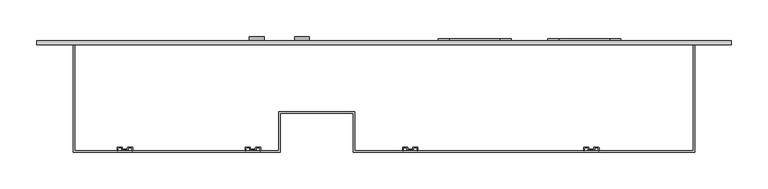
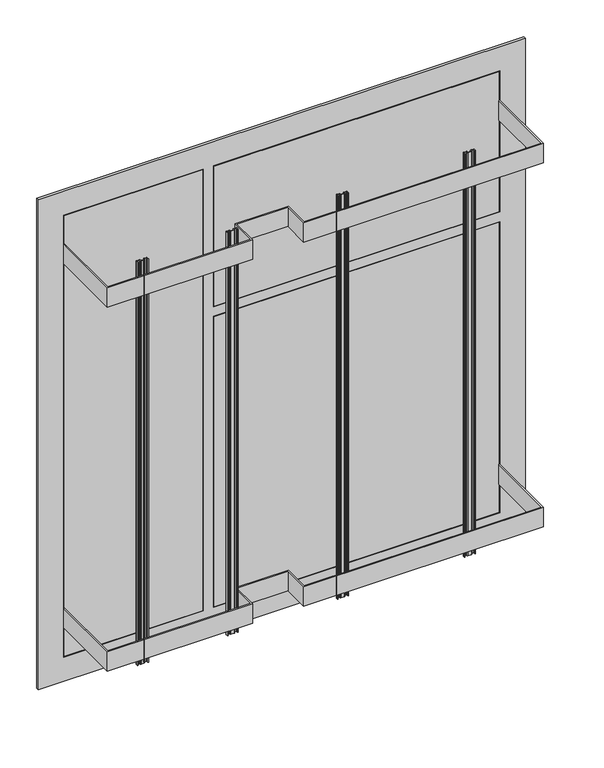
"""IFC4 building model written with IfcOpenShell, lengths in millimetres: proxy geometry, ЩЭ : ЩЭ_2 квартиры."""

from ifc_helpers import new_model, si_unit, point, frame, frame_2d, origin, place, context, project, spatial, polyline, circle_curve, trimmed, segment, composite_curve, outline, extrude, source, transform, mapped, element, save
from ifc_brep_helpers import plane_surface, cylinder_surface, revolved_surface, advanced_brep


def electrical_equipment_854c8e54(model_context):
    return source(origin(), model_context, "Body", "SolidModel", [
        extrude(outline(composite_curve([segment(trimmed(circle_curve(frame_2d((498.0, 89.0)), 15.0), [point((513.0, 89.0))], [point((498.0, 74.0))], False, "CARTESIAN"), True, "CONTINUOUS"), segment(polyline([(498.0, 74.0), (463.0, 74.0)]), True, "CONTINUOUS"), segment(trimmed(circle_curve(frame_2d((463.0, 89.0)), 15.0), [point((463.0, 74.0))], [point((448.0, 89.0))], False, "CARTESIAN"), True, "CONTINUOUS"), segment(polyline([(448.0, 89.0), (448.0, 159.0)]), True, "CONTINUOUS"), segment(trimmed(circle_curve(frame_2d((463.0, 159.0)), 15.0), [point((448.0, 159.0))], [point((463.0, 174.0))], False, "CARTESIAN"), True, "CONTINUOUS"), segment(polyline([(463.0, 174.0), (498.0, 174.0)]), True, "CONTINUOUS"), segment(trimmed(circle_curve(frame_2d((498.0, 159.0)), 15.0), [point((498.0, 174.0))], [point((513.0, 159.0))], False, "CARTESIAN"), True, "CONTINUOUS"), segment(polyline([(513.0, 159.0), (513.0, 89.0)]), True, "CONTINUOUS")], self_intersect=False)), frame((0.0, 5.0, 0.0), z_axis=(0.0, 1.0, 0.0), x_axis=(0.0, 0.0, 1.0)), (0.0, 0.0, 1.0), 3.0),
        extrude(outline(composite_curve([segment(trimmed(circle_curve(frame_2d((498.0, 239.0)), 15.0), [point((513.0, 239.0))], [point((498.0, 224.0))], False, "CARTESIAN"), True, "CONTINUOUS"), segment(polyline([(498.0, 224.0), (463.0, 224.0)]), True, "CONTINUOUS"), segment(trimmed(circle_curve(frame_2d((463.0, 239.0)), 15.0), [point((463.0, 224.0))], [point((448.0, 239.0))], False, "CARTESIAN"), True, "CONTINUOUS"), segment(polyline([(448.0, 239.0), (448.0, 309.0)]), True, "CONTINUOUS"), segment(trimmed(circle_curve(frame_2d((463.0, 309.0)), 15.0), [point((448.0, 309.0))], [point((463.0, 324.0))], False, "CARTESIAN"), True, "CONTINUOUS"), segment(polyline([(463.0, 324.0), (498.0, 324.0)]), True, "CONTINUOUS"), segment(trimmed(circle_curve(frame_2d((498.0, 309.0)), 15.0), [point((498.0, 324.0))], [point((513.0, 309.0))], False, "CARTESIAN"), True, "CONTINUOUS"), segment(polyline([(513.0, 309.0), (513.0, 239.0)]), True, "CONTINUOUS")], self_intersect=False)), frame((0.0, 5.0, 0.0), z_axis=(0.0, 1.0, 0.0), x_axis=(0.0, 0.0, 1.0)), (0.0, 0.0, 1.0), 3.0),
        extrude(outline(composite_curve([segment(trimmed(circle_curve(frame_2d((26.3020158, -141.0)), 1.0), [point((25.3020158, -141.0))], [point((26.3020158, -140.0))], False, "CARTESIAN"), True, "CONTINUOUS"), segment(polyline([(26.3020158, -140.0), (31.3020158, -140.0)]), True, "CONTINUOUS"), segment(trimmed(circle_curve(frame_2d((31.3020158, -141.0)), 1.0), [point((31.3020158, -140.0))], [point((32.3020158, -141.0))], False, "CARTESIAN"), True, "CONTINUOUS"), segment(polyline([(32.3020158, -141.0), (32.3020158, -142.0)]), True, "CONTINUOUS"), segment(trimmed(circle_curve(frame_2d((33.3020158, -142.0)), 1.0), [point((32.3020158, -142.0))], [point((33.3020158, -143.0))], True, "CARTESIAN"), True, "CONTINUOUS"), segment(polyline([(33.3020158, -143.0), (38.3020158, -143.0)]), True, "CONTINUOUS"), segment(trimmed(circle_curve(frame_2d((38.3020158, -142.0)), 1.0), [point((38.3020158, -143.0))], [point((39.3020158, -142.0))], True, "CARTESIAN"), True, "CONTINUOUS"), segment(polyline([(39.3020158, -142.0), (39.3020158, -141.0)]), True, "CONTINUOUS"), segment(trimmed(circle_curve(frame_2d((40.3020158, -141.0)), 1.0), [point((39.3020158, -141.0))], [point((40.3020158, -140.0))], False, "CARTESIAN"), True, "CONTINUOUS"), segment(polyline([(40.3020158, -140.0), (45.3020158, -140.0)]), True, "CONTINUOUS"), segment(trimmed(circle_curve(frame_2d((45.3020158, -141.0)), 1.0), [point((45.3020158, -140.0))], [point((46.3020158, -141.0))], False, "CARTESIAN"), True, "CONTINUOUS"), segment(polyline([(46.3020158, -141.0), (46.3020158, -145.0), (45.3020158, -145.0), (45.3020158, -142.0)]), True, "CONTINUOUS"), segment(trimmed(circle_curve(frame_2d((44.3020158, -142.0)), 1.0), [point((45.3020158, -142.0))], [point((44.3020158, -141.0))], True, "CARTESIAN"), True, "CONTINUOUS"), segment(polyline([(44.3020158, -141.0), (41.3020158, -141.0)]), True, "CONTINUOUS"), segment(trimmed(circle_curve(frame_2d((41.3020158, -142.0)), 1.0), [point((41.3020158, -141.0))], [point((40.3020158, -142.0))], True, "CARTESIAN"), True, "CONTINUOUS"), segment(polyline([(40.3020158, -142.0), (40.3020158, -143.0)]), True, "CONTINUOUS"), segment(trimmed(circle_curve(frame_2d((39.3020158, -143.0)), 1.0), [point((40.3020158, -143.0))], [point((39.3020158, -144.0))], False, "CARTESIAN"), True, "CONTINUOUS"), segment(polyline([(39.3020158, -144.0), (32.3020158, -144.0)]), True, "CONTINUOUS"), segment(trimmed(circle_curve(frame_2d((32.3020158, -143.0)), 1.0), [point((32.3020158, -144.0))], [point((31.3020158, -143.0))], False, "CARTESIAN"), True, "CONTINUOUS"), segment(polyline([(31.3020158, -143.0), (31.3020158, -142.0)]), True, "CONTINUOUS"), segment(trimmed(circle_curve(frame_2d((30.3020158, -142.0)), 1.0), [point((31.3020158, -142.0))], [point((30.3020158, -141.0))], True, "CARTESIAN"), True, "CONTINUOUS"), segment(polyline([(30.3020158, -141.0), (27.3020158, -141.0)]), True, "CONTINUOUS"), segment(trimmed(circle_curve(frame_2d((27.3020158, -142.0)), 1.0), [point((27.3020158, -141.0))], [point((26.3020158, -142.0))], True, "CARTESIAN"), True, "CONTINUOUS"), segment(polyline([(26.3020158, -142.0), (26.3020158, -145.0), (25.3020158, -145.0), (25.3020158, -141.0)]), True, "CONTINUOUS")], self_intersect=False)), frame((0.0, 0.0, 99.2671013), z_axis=(0.0, 0.0, 1.0), x_axis=(1.0, 0.0, 0.0)), (0.0, 0.0, 1.0), 830.6584154),
        extrude(outline(composite_curve([segment(trimmed(circle_curve(frame_2d((274.0, -141.0)), 1.0), [point((273.0, -141.0))], [point((274.0, -140.0))], False, "CARTESIAN"), True, "CONTINUOUS"), segment(polyline([(274.0, -140.0), (279.0, -140.0)]), True, "CONTINUOUS"), segment(trimmed(circle_curve(frame_2d((279.0, -141.0)), 1.0), [point((279.0, -140.0))], [point((280.0, -141.0))], False, "CARTESIAN"), True, "CONTINUOUS"), segment(polyline([(280.0, -141.0), (280.0, -142.0)]), True, "CONTINUOUS"), segment(trimmed(circle_curve(frame_2d((281.0, -142.0)), 1.0), [point((280.0, -142.0))], [point((281.0, -143.0))], True, "CARTESIAN"), True, "CONTINUOUS"), segment(polyline([(281.0, -143.0), (286.0, -143.0)]), True, "CONTINUOUS"), segment(trimmed(circle_curve(frame_2d((286.0, -142.0)), 1.0), [point((286.0, -143.0))], [point((287.0, -142.0))], True, "CARTESIAN"), True, "CONTINUOUS"), segment(polyline([(287.0, -142.0), (287.0, -141.0)]), True, "CONTINUOUS"), segment(trimmed(circle_curve(frame_2d((288.0, -141.0)), 1.0), [point((287.0, -141.0))], [point((288.0, -140.0))], False, "CARTESIAN"), True, "CONTINUOUS"), segment(polyline([(288.0, -140.0), (293.0, -140.0)]), True, "CONTINUOUS"), segment(trimmed(circle_curve(frame_2d((293.0, -141.0)), 1.0), [point((293.0, -140.0))], [point((294.0, -141.0))], False, "CARTESIAN"), True, "CONTINUOUS"), segment(polyline([(294.0, -141.0), (294.0, -145.0), (293.0, -145.0), (293.0, -142.0)]), True, "CONTINUOUS"), segment(trimmed(circle_curve(frame_2d((292.0, -142.0)), 1.0), [point((293.0, -142.0))], [point((292.0, -141.0))], True, "CARTESIAN"), True, "CONTINUOUS"), segment(polyline([(292.0, -141.0), (289.0, -141.0)]), True, "CONTINUOUS"), segment(trimmed(circle_curve(frame_2d((289.0, -142.0)), 1.0), [point((289.0, -141.0))], [point((288.0, -142.0))], True, "CARTESIAN"), True, "CONTINUOUS"), segment(polyline([(288.0, -142.0), (288.0, -143.0)]), True, "CONTINUOUS"), segment(trimmed(circle_curve(frame_2d((287.0, -143.0)), 1.0), [point((288.0, -143.0))], [point((287.0, -144.0))], False, "CARTESIAN"), True, "CONTINUOUS"), segment(polyline([(287.0, -144.0), (280.0, -144.0)]), True, "CONTINUOUS"), segment(trimmed(circle_curve(frame_2d((280.0, -143.0)), 1.0), [point((280.0, -144.0))], [point((279.0, -143.0))], False, "CARTESIAN"), True, "CONTINUOUS"), segment(polyline([(279.0, -143.0), (279.0, -142.0)]), True, "CONTINUOUS"), segment(trimmed(circle_curve(frame_2d((278.0, -142.0)), 1.0), [point((279.0, -142.0))], [point((278.0, -141.0))], True, "CARTESIAN"), True, "CONTINUOUS"), segment(polyline([(278.0, -141.0), (275.0, -141.0)]), True, "CONTINUOUS"), segment(trimmed(circle_curve(frame_2d((275.0, -142.0)), 1.0), [point((275.0, -141.0))], [point((274.0, -142.0))], True, "CARTESIAN"), True, "CONTINUOUS"), segment(polyline([(274.0, -142.0), (274.0, -145.0), (273.0, -145.0), (273.0, -141.0)]), True, "CONTINUOUS")], self_intersect=False)), frame((0.0, 0.0, 99.2671013), z_axis=(0.0, 0.0, 1.0), x_axis=(1.0, 0.0, 0.0)), (0.0, 0.0, 1.0), 830.6584154),
        extrude(outline(composite_curve([segment(trimmed(circle_curve(frame_2d((-188.6979842, -141.0)), 1.0), [point((-189.6979842, -141.0))], [point((-188.6979842, -140.0))], False, "CARTESIAN"), True, "CONTINUOUS"), segment(polyline([(-188.6979842, -140.0), (-183.6979842, -140.0)]), True, "CONTINUOUS"), segment(trimmed(circle_curve(frame_2d((-183.6979842, -141.0)), 1.0), [point((-183.6979842, -140.0))], [point((-182.6979842, -141.0))], False, "CARTESIAN"), True, "CONTINUOUS"), segment(polyline([(-182.6979842, -141.0), (-182.6979842, -142.0)]), True, "CONTINUOUS"), segment(trimmed(circle_curve(frame_2d((-181.6979842, -142.0)), 1.0), [point((-182.6979842, -142.0))], [point((-181.6979842, -143.0))], True, "CARTESIAN"), True, "CONTINUOUS"), segment(polyline([(-181.6979842, -143.0), (-176.6979842, -143.0)]), True, "CONTINUOUS"), segment(trimmed(circle_curve(frame_2d((-176.6979842, -142.0)), 1.0), [point((-176.6979842, -143.0))], [point((-175.6979842, -142.0))], True, "CARTESIAN"), True, "CONTINUOUS"), segment(polyline([(-175.6979842, -142.0), (-175.6979842, -141.0)]), True, "CONTINUOUS"), segment(trimmed(circle_curve(frame_2d((-174.6979842, -141.0)), 1.0), [point((-175.6979842, -141.0))], [point((-174.6979842, -140.0))], False, "CARTESIAN"), True, "CONTINUOUS"), segment(polyline([(-174.6979842, -140.0), (-169.6979842, -140.0)]), True, "CONTINUOUS"), segment(trimmed(circle_curve(frame_2d((-169.6979842, -141.0)), 1.0), [point((-169.6979842, -140.0))], [point((-168.6979842, -141.0))], False, "CARTESIAN"), True, "CONTINUOUS"), segment(polyline([(-168.6979842, -141.0), (-168.6979842, -145.0), (-169.6979842, -145.0), (-169.6979842, -142.0)]), True, "CONTINUOUS"), segment(trimmed(circle_curve(frame_2d((-170.6979842, -142.0)), 1.0), [point((-169.6979842, -142.0))], [point((-170.6979842, -141.0))], True, "CARTESIAN"), True, "CONTINUOUS"), segment(polyline([(-170.6979842, -141.0), (-173.6979842, -141.0)]), True, "CONTINUOUS"), segment(trimmed(circle_curve(frame_2d((-173.6979842, -142.0)), 1.0), [point((-173.6979842, -141.0))], [point((-174.6979842, -142.0))], True, "CARTESIAN"), True, "CONTINUOUS"), segment(polyline([(-174.6979842, -142.0), (-174.6979842, -143.0)]), True, "CONTINUOUS"), segment(trimmed(circle_curve(frame_2d((-175.6979842, -143.0)), 1.0), [point((-174.6979842, -143.0))], [point((-175.6979842, -144.0))], False, "CARTESIAN"), True, "CONTINUOUS"), segment(polyline([(-175.6979842, -144.0), (-182.6979842, -144.0)]), True, "CONTINUOUS"), segment(trimmed(circle_curve(frame_2d((-182.6979842, -143.0)), 1.0), [point((-182.6979842, -144.0))], [point((-183.6979842, -143.0))], False, "CARTESIAN"), True, "CONTINUOUS"), segment(polyline([(-183.6979842, -143.0), (-183.6979842, -142.0)]), True, "CONTINUOUS"), segment(trimmed(circle_curve(frame_2d((-184.6979842, -142.0)), 1.0), [point((-183.6979842, -142.0))], [point((-184.6979842, -141.0))], True, "CARTESIAN"), True, "CONTINUOUS"), segment(polyline([(-184.6979842, -141.0), (-187.6979842, -141.0)]), True, "CONTINUOUS"), segment(trimmed(circle_curve(frame_2d((-187.6979842, -142.0)), 1.0), [point((-187.6979842, -141.0))], [point((-188.6979842, -142.0))], True, "CARTESIAN"), True, "CONTINUOUS"), segment(polyline([(-188.6979842, -142.0), (-188.6979842, -145.0), (-189.6979842, -145.0), (-189.6979842, -141.0)]), True, "CONTINUOUS")], self_intersect=False)), frame((0.0, 0.0, 99.2671013), z_axis=(0.0, 0.0, 1.0), x_axis=(1.0, 0.0, 0.0)), (0.0, 0.0, 1.0), 830.6584154),
        extrude(outline(composite_curve([segment(trimmed(circle_curve(frame_2d((-363.6979842, -141.0)), 1.0), [point((-364.6979842, -141.0))], [point((-363.6979842, -140.0))], False, "CARTESIAN"), True, "CONTINUOUS"), segment(polyline([(-363.6979842, -140.0), (-358.6979842, -140.0)]), True, "CONTINUOUS"), segment(trimmed(circle_curve(frame_2d((-358.6979842, -141.0)), 1.0), [point((-358.6979842, -140.0))], [point((-357.6979842, -141.0))], False, "CARTESIAN"), True, "CONTINUOUS"), segment(polyline([(-357.6979842, -141.0), (-357.6979842, -142.0)]), True, "CONTINUOUS"), segment(trimmed(circle_curve(frame_2d((-356.6979842, -142.0)), 1.0), [point((-357.6979842, -142.0))], [point((-356.6979842, -143.0))], True, "CARTESIAN"), True, "CONTINUOUS"), segment(polyline([(-356.6979842, -143.0), (-351.6979842, -143.0)]), True, "CONTINUOUS"), segment(trimmed(circle_curve(frame_2d((-351.6979842, -142.0)), 1.0), [point((-351.6979842, -143.0))], [point((-350.6979842, -142.0))], True, "CARTESIAN"), True, "CONTINUOUS"), segment(polyline([(-350.6979842, -142.0), (-350.6979842, -141.0)]), True, "CONTINUOUS"), segment(trimmed(circle_curve(frame_2d((-349.6979842, -141.0)), 1.0), [point((-350.6979842, -141.0))], [point((-349.6979842, -140.0))], False, "CARTESIAN"), True, "CONTINUOUS"), segment(polyline([(-349.6979842, -140.0), (-344.6979842, -140.0)]), True, "CONTINUOUS"), segment(trimmed(circle_curve(frame_2d((-344.6979842, -141.0)), 1.0), [point((-344.6979842, -140.0))], [point((-343.6979842, -141.0))], False, "CARTESIAN"), True, "CONTINUOUS"), segment(polyline([(-343.6979842, -141.0), (-343.6979842, -145.0), (-344.6979842, -145.0), (-344.6979842, -142.0)]), True, "CONTINUOUS"), segment(trimmed(circle_curve(frame_2d((-345.6979842, -142.0)), 1.0), [point((-344.6979842, -142.0))], [point((-345.6979842, -141.0))], True, "CARTESIAN"), True, "CONTINUOUS"), segment(polyline([(-345.6979842, -141.0), (-348.6979842, -141.0)]), True, "CONTINUOUS"), segment(trimmed(circle_curve(frame_2d((-348.6979842, -142.0)), 1.0), [point((-348.6979842, -141.0))], [point((-349.6979842, -142.0))], True, "CARTESIAN"), True, "CONTINUOUS"), segment(polyline([(-349.6979842, -142.0), (-349.6979842, -143.0)]), True, "CONTINUOUS"), segment(trimmed(circle_curve(frame_2d((-350.6979842, -143.0)), 1.0), [point((-349.6979842, -143.0))], [point((-350.6979842, -144.0))], False, "CARTESIAN"), True, "CONTINUOUS"), segment(polyline([(-350.6979842, -144.0), (-357.6979842, -144.0)]), True, "CONTINUOUS"), segment(trimmed(circle_curve(frame_2d((-357.6979842, -143.0)), 1.0), [point((-357.6979842, -144.0))], [point((-358.6979842, -143.0))], False, "CARTESIAN"), True, "CONTINUOUS"), segment(polyline([(-358.6979842, -143.0), (-358.6979842, -142.0)]), True, "CONTINUOUS"), segment(trimmed(circle_curve(frame_2d((-359.6979842, -142.0)), 1.0), [point((-358.6979842, -142.0))], [point((-359.6979842, -141.0))], True, "CARTESIAN"), True, "CONTINUOUS"), segment(polyline([(-359.6979842, -141.0), (-362.6979842, -141.0)]), True, "CONTINUOUS"), segment(trimmed(circle_curve(frame_2d((-362.6979842, -142.0)), 1.0), [point((-362.6979842, -141.0))], [point((-363.6979842, -142.0))], True, "CARTESIAN"), True, "CONTINUOUS"), segment(polyline([(-363.6979842, -142.0), (-363.6979842, -145.0), (-364.6979842, -145.0), (-364.6979842, -141.0)]), True, "CONTINUOUS")], self_intersect=False)), frame((0.0, 0.0, 99.2671013), z_axis=(0.0, 0.0, 1.0), x_axis=(1.0, 0.0, 0.0)), (0.0, 0.0, 1.0), 830.6584154),
        extrude(outline(polyline([(424.0, 0.0), (-132.0, 0.0), (-132.0, 5.0), (424.0, 5.0), (424.0, 0.0)])), frame((0.0, 0.0, 670.5), z_axis=(0.0, 0.0, 1.0), x_axis=(1.0, 0.0, 0.0)), (0.0, 0.0, 1.0), 288.5),
        extrude(outline(polyline([(-425.0, -147.0), (-425.0, 0.0), (-423.0, 0.0), (-423.0, -145.0), (-144.0, -145.0), (-144.0, -92.0), (-40.0, -92.0), (-40.0, -145.0), (423.0, -145.0), (423.0, 0.0), (425.0, 0.0), (425.0, -147.0), (-42.0, -147.0), (-42.0, -94.0), (-142.0, -94.0), (-142.0, -147.0), (-425.0, -147.0)])), frame((0.0, 0.0, 860.0), z_axis=(0.0, 0.0, 1.0), x_axis=(1.0, 0.0, 0.0)), (0.0, 0.0, 1.0), 40.0),
        extrude(outline(polyline([(-425.0, -147.0), (-425.0, 0.0), (-423.0, 0.0), (-423.0, -145.0), (-144.0, -145.0), (-144.0, -92.0), (-40.0, -92.0), (-40.0, -145.0), (423.0, -145.0), (423.0, 0.0), (425.0, 0.0), (425.0, -147.0), (-42.0, -147.0), (-42.0, -94.0), (-142.0, -94.0), (-142.0, -147.0), (-425.0, -147.0)])), frame((0.0, 0.0, 110.0), z_axis=(0.0, 0.0, 1.0), x_axis=(1.0, 0.0, 0.0)), (0.0, 0.0, 1.0), 40.0),
        advanced_brep(
        [(-184.0, 5.0, 505.0), (-164.0, 5.0, 505.0), (-174.0, 5.0, 505.0), (-184.0, 11.0, 505.0), (-164.0, 11.0, 505.0), (-177.1377642, 11.0, 505.0), (-170.8622358, 11.0, 505.0), (-177.1377642, 9.9822294, 505.0), (-170.8622358, 9.9822294, 505.0), (-174.0, 9.9822294, 505.0)],
        [
            (0, 1, circle_curve(frame((-174.0, 5.0, 505.0), z_axis=(0.0, -1.0, 0.0), x_axis=(1.0, 0.0, 0.0)), 10.0)),
            (1, 2),
            (2, 0),
            (1, 0, circle_curve(frame((-174.0, 5.0, 505.0), z_axis=(0.0, -1.0, 0.0), x_axis=(1.0, 0.0, 0.0)), 10.0)),
            (3, 4, circle_curve(frame((-174.0, 11.0, 505.0), z_axis=(0.0, -1.0, 0.0), x_axis=(1.0, 0.0, 0.0)), 10.0)),
            (4, 1),
            (0, 3),
            (4, 3, circle_curve(frame((-174.0, 11.0, 505.0), z_axis=(0.0, -1.0, 0.0), x_axis=(1.0, 0.0, 0.0)), 10.0)),
            (5, 6, circle_curve(frame((-174.0, 11.0, 505.0), z_axis=(0.0, -1.0, 0.0), x_axis=(1.0, 0.0, 0.0)), 3.1377642)),
            (6, 4),
            (3, 5),
            (6, 5, circle_curve(frame((-174.0, 11.0, 505.0), z_axis=(0.0, -1.0, 0.0), x_axis=(1.0, 0.0, 0.0)), 3.1377642)),
            (7, 8, circle_curve(frame((-174.0, 9.9822294, 505.0), z_axis=(0.0, -1.0, 0.0), x_axis=(1.0, 0.0, 0.0)), 3.1377642)),
            (8, 6),
            (5, 7),
            (8, 7, circle_curve(frame((-174.0, 9.9822294, 505.0), z_axis=(0.0, -1.0, 0.0), x_axis=(1.0, 0.0, 0.0)), 3.1377642)),
            (9, 8),
            (7, 9),
        ],
        [
            plane_surface(frame((-174.0, 5.0, 505.0), z_axis=(0.0, -1.0, 0.0), x_axis=(1.0, 0.0, 0.0))),
            cylinder_surface(frame((-174.0, 18.1348851, 505.0), z_axis=(0.0, 1.0, 0.0), x_axis=(1.0, 0.0, 0.0)), 10.0),
            plane_surface(frame((-174.0, 11.0, 505.0), z_axis=(0.0, 1.0, 0.0), x_axis=(1.0, 0.0, 0.0))),
            revolved_surface(polyline([(-170.8622358, 11.0, 505.0), (-170.8622358, 9.9822294, 505.0)]), (-174.0, 18.1348851, 505.0), (0.0, 1.0, 0.0)),
            plane_surface(frame((-174.0, 9.9822294, 505.0), z_axis=(0.0, 1.0, 0.0), x_axis=(1.0, 0.0, 0.0))),
        ],
        [
            (0, [[1, 2, 3]]),
            (0, [[4, -3, -2]]),
            (1, [[5, 6, -1, 7]]),
            (1, [[8, -7, -4, -6]]),
            (2, [[9, 10, -5, 11]]),
            (2, [[12, -11, -8, -10]]),
            (3, [[13, 14, -9, 15]]),
            (3, [[16, -15, -12, -14]]),
            (4, [[17, -13, 18]]),
            (4, [[-18, -16, -17]]),
        ],
    ),
        advanced_brep(
        [(-122.0, 5.0, 340.3115373), (-102.0, 5.0, 340.3115373), (-112.0, 5.0, 340.3115373), (-122.0, 11.0, 340.3115373), (-102.0, 11.0, 340.3115373), (-115.1377642, 11.0, 340.3115373), (-108.8622358, 11.0, 340.3115373), (-115.1377642, 9.9822294, 340.3115373), (-108.8622358, 9.9822294, 340.3115373), (-112.0, 9.9822294, 340.3115373)],
        [
            (0, 1, circle_curve(frame((-112.0, 5.0, 340.3115373), z_axis=(0.0, -1.0, 0.0), x_axis=(1.0, 0.0, 0.0)), 10.0)),
            (1, 2),
            (2, 0),
            (1, 0, circle_curve(frame((-112.0, 5.0, 340.3115373), z_axis=(0.0, -1.0, 0.0), x_axis=(1.0, 0.0, 0.0)), 10.0)),
            (3, 4, circle_curve(frame((-112.0, 11.0, 340.3115373), z_axis=(0.0, -1.0, 0.0), x_axis=(1.0, 0.0, 0.0)), 10.0)),
            (4, 1),
            (0, 3),
            (4, 3, circle_curve(frame((-112.0, 11.0, 340.3115373), z_axis=(0.0, -1.0, 0.0), x_axis=(1.0, 0.0, 0.0)), 10.0)),
            (5, 6, circle_curve(frame((-112.0, 11.0, 340.3115373), z_axis=(0.0, -1.0, 0.0), x_axis=(1.0, 0.0, 0.0)), 3.1377642)),
            (6, 4),
            (3, 5),
            (6, 5, circle_curve(frame((-112.0, 11.0, 340.3115373), z_axis=(0.0, -1.0, 0.0), x_axis=(1.0, 0.0, 0.0)), 3.1377642)),
            (7, 8, circle_curve(frame((-112.0, 9.9822294, 340.3115373), z_axis=(0.0, -1.0, 0.0), x_axis=(1.0, 0.0, 0.0)), 3.1377642)),
            (8, 6),
            (5, 7),
            (8, 7, circle_curve(frame((-112.0, 9.9822294, 340.3115373), z_axis=(0.0, -1.0, 0.0), x_axis=(1.0, 0.0, 0.0)), 3.1377642)),
            (9, 8),
            (7, 9),
        ],
        [
            plane_surface(frame((-112.0, 5.0, 340.3115373), z_axis=(0.0, -1.0, 0.0), x_axis=(1.0, 0.0, 0.0))),
            cylinder_surface(frame((-112.0, 18.1348851, 340.3115373), z_axis=(0.0, 1.0, 0.0), x_axis=(1.0, 0.0, 0.0)), 10.0),
            plane_surface(frame((-112.0, 11.0, 340.3115373), z_axis=(0.0, 1.0, 0.0), x_axis=(1.0, 0.0, 0.0))),
            revolved_surface(polyline([(-108.8622358, 11.0, 340.3115373), (-108.8622358, 9.9822294, 340.3115373)]), (-112.0, 18.1348851, 340.3115373), (0.0, 1.0, 0.0)),
            plane_surface(frame((-112.0, 9.9822294, 340.3115373), z_axis=(0.0, 1.0, 0.0), x_axis=(1.0, 0.0, 0.0))),
        ],
        [
            (0, [[1, 2, 3]]),
            (0, [[4, -3, -2]]),
            (1, [[5, 6, -1, 7]]),
            (1, [[8, -7, -4, -6]]),
            (2, [[9, 10, -5, 11]]),
            (2, [[12, -11, -8, -10]]),
            (3, [[13, 14, -9, 15]]),
            (3, [[16, -15, -12, -14]]),
            (4, [[17, -13, 18]]),
            (4, [[-18, -16, -17]]),
        ],
    ),
        advanced_brep(
        [(-122.0, 5.0, 780.3115373), (-102.0, 5.0, 780.3115373), (-112.0, 5.0, 780.3115373), (-122.0, 11.0, 780.3115373), (-102.0, 11.0, 780.3115373), (-115.1377642, 11.0, 780.3115373), (-108.8622358, 11.0, 780.3115373), (-115.1377642, 9.9822294, 780.3115373), (-108.8622358, 9.9822294, 780.3115373), (-112.0, 9.9822294, 780.3115373)],
        [
            (0, 1, circle_curve(frame((-112.0, 5.0, 780.3115373), z_axis=(0.0, -1.0, 0.0), x_axis=(1.0, 0.0, 0.0)), 10.0)),
            (1, 2),
            (2, 0),
            (1, 0, circle_curve(frame((-112.0, 5.0, 780.3115373), z_axis=(0.0, -1.0, 0.0), x_axis=(1.0, 0.0, 0.0)), 10.0)),
            (3, 4, circle_curve(frame((-112.0, 11.0, 780.3115373), z_axis=(0.0, -1.0, 0.0), x_axis=(1.0, 0.0, 0.0)), 10.0)),
            (4, 1),
            (0, 3),
            (4, 3, circle_curve(frame((-112.0, 11.0, 780.3115373), z_axis=(0.0, -1.0, 0.0), x_axis=(1.0, 0.0, 0.0)), 10.0)),
            (5, 6, circle_curve(frame((-112.0, 11.0, 780.3115373), z_axis=(0.0, -1.0, 0.0), x_axis=(1.0, 0.0, 0.0)), 3.1377642)),
            (6, 4),
            (3, 5),
            (6, 5, circle_curve(frame((-112.0, 11.0, 780.3115373), z_axis=(0.0, -1.0, 0.0), x_axis=(1.0, 0.0, 0.0)), 3.1377642)),
            (7, 8, circle_curve(frame((-112.0, 9.9822294, 780.3115373), z_axis=(0.0, -1.0, 0.0), x_axis=(1.0, 0.0, 0.0)), 3.1377642)),
            (8, 6),
            (5, 7),
            (8, 7, circle_curve(frame((-112.0, 9.9822294, 780.3115373), z_axis=(0.0, -1.0, 0.0), x_axis=(1.0, 0.0, 0.0)), 3.1377642)),
            (9, 8),
            (7, 9),
        ],
        [
            plane_surface(frame((-112.0, 5.0, 780.3115373), z_axis=(0.0, -1.0, 0.0), x_axis=(1.0, 0.0, 0.0))),
            cylinder_surface(frame((-112.0, 18.1348851, 780.3115373), z_axis=(0.0, 1.0, 0.0), x_axis=(1.0, 0.0, 0.0)), 10.0),
            plane_surface(frame((-112.0, 11.0, 780.3115373), z_axis=(0.0, 1.0, 0.0), x_axis=(1.0, 0.0, 0.0))),
            revolved_surface(polyline([(-108.8622358, 11.0, 780.3115373), (-108.8622358, 9.9822294, 780.3115373)]), (-112.0, 18.1348851, 780.3115373), (0.0, 1.0, 0.0)),
            plane_surface(frame((-112.0, 9.9822294, 780.3115373), z_axis=(0.0, 1.0, 0.0), x_axis=(1.0, 0.0, 0.0))),
        ],
        [
            (0, [[1, 2, 3]]),
            (0, [[4, -3, -2]]),
            (1, [[5, 6, -1, 7]]),
            (1, [[8, -7, -4, -6]]),
            (2, [[9, 10, -5, 11]]),
            (2, [[12, -11, -8, -10]]),
            (3, [[13, 14, -9, 15]]),
            (3, [[16, -15, -12, -14]]),
            (4, [[17, -13, 18]]),
            (4, [[-18, -16, -17]]),
        ],
    ),
        extrude(outline(polyline([(-154.0, 0.0), (-424.0, 0.0), (-424.0, 5.0), (-154.0, 5.0), (-154.0, 0.0)])), frame((0.0, 0.0, 51.0), z_axis=(0.0, 0.0, 1.0), x_axis=(1.0, 0.0, 0.0)), (0.0, 0.0, 1.0), 908.0),
        extrude(outline(polyline([(424.0, 0.0), (-132.0, 0.0), (-132.0, 5.0), (424.0, 5.0), (424.0, 0.0)])), frame((0.0, 0.0, 51.0), z_axis=(0.0, 0.0, 1.0), x_axis=(1.0, 0.0, 0.0)), (0.0, 0.0, 1.0), 597.5),
        extrude(outline(polyline([(1010.0, -475.0), (0.0, -475.0), (0.0, 475.0), (1010.0, 475.0), (1010.0, -475.0)]), holes=[polyline([(960.0, -133.0), (960.0, 425.0), (669.5, 425.0), (669.5, -133.0), (960.0, -133.0)]), polyline([(649.5, 425.0), (50.0, 425.0), (50.0, -133.0), (649.5, -133.0), (649.5, 425.0)]), polyline([(50.0, -153.0), (50.0, -425.0), (960.0, -425.0), (960.0, -153.0), (50.0, -153.0)])]), frame((0.0, 0.0, 0.0), z_axis=(0.0, 1.0, 0.0), x_axis=(0.0, 0.0, 1.0)), (0.0, 0.0, 1.0), 5.0),
    ])


if __name__ == "__main__":
    model = new_model("IFC4")
    model_context = context("Model", 3, world=origin())
    ifc_project = project(units=[si_unit("LENGTHUNIT", "METRE", prefix="MILLI")], contexts=[model_context])
    site = spatial("IfcSite", under=ifc_project)
    building = spatial("IfcBuilding", under=site)
    placement = place(None, origin())
    electrical_equipment_shape = electrical_equipment_854c8e54(model_context)
    element("IfcBuildingElementProxy", 1, Name="ЩЭ : ЩЭ_2 квартиры", ObjectType="ЩЭ : ЩЭ_2 квартиры", at=placement, inside=building, context=model_context, shape_type="MappedRepresentation", body=[
        mapped(electrical_equipment_shape, transform((0.0, 0.0, 0.0), x_axis=(1.0, 0.0, 0.0), y_axis=(0.0, 1.0, 0.0), z_axis=(0.0, 0.0, 1.0))),
    ])
    save(model, "model.ifc")
